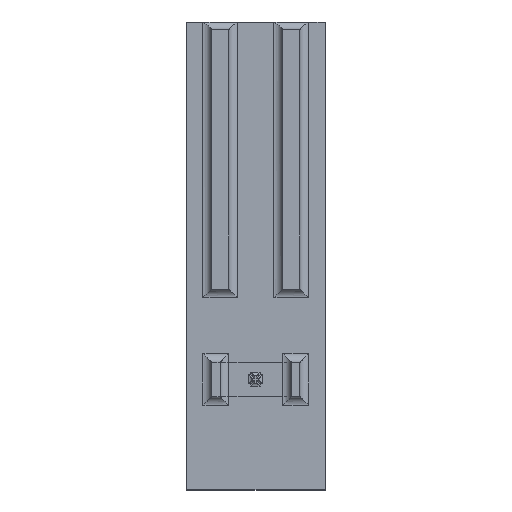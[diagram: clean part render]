
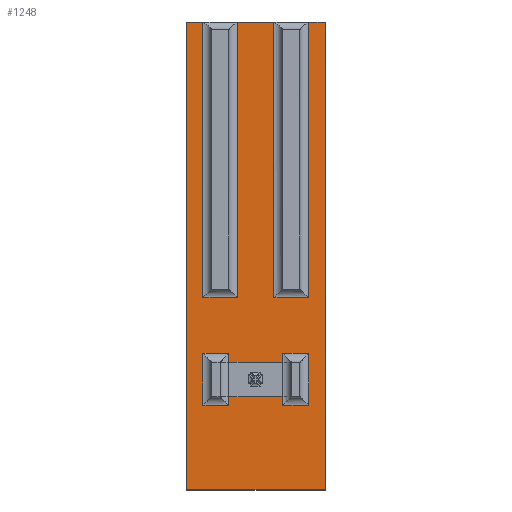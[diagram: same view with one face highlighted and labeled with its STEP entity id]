
A CAD part, top view. The second image highlights one B-rep face of the part: STEP entity #1248.
In plain terms, the highlighted planar face has unit normal (0, 0, 1).
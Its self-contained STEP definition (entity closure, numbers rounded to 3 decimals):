
#20=FACE_BOUND('',#192,.T.);
#21=FACE_BOUND('',#193,.T.);
#61=PLANE('',#1347);
#117=FACE_OUTER_BOUND('',#191,.T.);
#191=EDGE_LOOP('',(#978,#979,#980,#981,#982,#983,#984,#985,#986,#987,#988,
#989));
#192=EDGE_LOOP('',(#990,#991,#992,#993));
#193=EDGE_LOOP('',(#994,#995,#996,#997));
#296=LINE('',#1997,#430);
#297=LINE('',#1999,#431);
#298=LINE('',#2001,#432);
#299=LINE('',#2003,#433);
#300=LINE('',#2005,#434);
#301=LINE('',#2007,#435);
#302=LINE('',#2009,#436);
#303=LINE('',#2011,#437);
#304=LINE('',#2013,#438);
#305=LINE('',#2014,#439);
#306=LINE('',#2016,#440);
#307=LINE('',#2017,#441);
#308=LINE('',#2020,#442);
#309=LINE('',#2022,#443);
#310=LINE('',#2024,#444);
#311=LINE('',#2025,#445);
#312=LINE('',#2028,#446);
#313=LINE('',#2030,#447);
#314=LINE('',#2032,#448);
#315=LINE('',#2033,#449);
#430=VECTOR('',#1590,10.);
#431=VECTOR('',#1591,10.);
#432=VECTOR('',#1592,10.);
#433=VECTOR('',#1593,10.);
#434=VECTOR('',#1594,10.);
#435=VECTOR('',#1595,10.);
#436=VECTOR('',#1596,10.);
#437=VECTOR('',#1597,10.);
#438=VECTOR('',#1598,10.);
#439=VECTOR('',#1599,10.);
#440=VECTOR('',#1600,10.);
#441=VECTOR('',#1601,10.);
#442=VECTOR('',#1602,10.);
#443=VECTOR('',#1603,10.);
#444=VECTOR('',#1604,10.);
#445=VECTOR('',#1605,10.);
#446=VECTOR('',#1606,10.);
#447=VECTOR('',#1607,10.);
#448=VECTOR('',#1608,10.);
#449=VECTOR('',#1609,10.);
#576=VERTEX_POINT('',#1953);
#579=VERTEX_POINT('',#1975);
#580=VERTEX_POINT('',#1996);
#581=VERTEX_POINT('',#1998);
#582=VERTEX_POINT('',#2000);
#583=VERTEX_POINT('',#2002);
#584=VERTEX_POINT('',#2004);
#585=VERTEX_POINT('',#2006);
#586=VERTEX_POINT('',#2008);
#587=VERTEX_POINT('',#2010);
#588=VERTEX_POINT('',#2012);
#589=VERTEX_POINT('',#2015);
#590=VERTEX_POINT('',#2018);
#591=VERTEX_POINT('',#2019);
#592=VERTEX_POINT('',#2021);
#593=VERTEX_POINT('',#2023);
#594=VERTEX_POINT('',#2026);
#595=VERTEX_POINT('',#2027);
#596=VERTEX_POINT('',#2029);
#597=VERTEX_POINT('',#2031);
#722=EDGE_CURVE('',#576,#580,#296,.T.);
#723=EDGE_CURVE('',#576,#581,#297,.T.);
#724=EDGE_CURVE('',#582,#581,#298,.T.);
#725=EDGE_CURVE('',#583,#582,#299,.T.);
#726=EDGE_CURVE('',#584,#583,#300,.T.);
#727=EDGE_CURVE('',#584,#585,#301,.T.);
#728=EDGE_CURVE('',#585,#586,#302,.T.);
#729=EDGE_CURVE('',#586,#587,#303,.T.);
#730=EDGE_CURVE('',#587,#588,#304,.T.);
#731=EDGE_CURVE('',#588,#579,#305,.T.);
#732=EDGE_CURVE('',#589,#579,#306,.T.);
#733=EDGE_CURVE('',#580,#589,#307,.T.);
#734=EDGE_CURVE('',#590,#591,#308,.T.);
#735=EDGE_CURVE('',#592,#590,#309,.T.);
#736=EDGE_CURVE('',#593,#592,#310,.T.);
#737=EDGE_CURVE('',#591,#593,#311,.T.);
#738=EDGE_CURVE('',#594,#595,#312,.T.);
#739=EDGE_CURVE('',#596,#594,#313,.T.);
#740=EDGE_CURVE('',#597,#596,#314,.T.);
#741=EDGE_CURVE('',#595,#597,#315,.T.);
#978=ORIENTED_EDGE('',*,*,#722,.F.);
#979=ORIENTED_EDGE('',*,*,#723,.T.);
#980=ORIENTED_EDGE('',*,*,#724,.F.);
#981=ORIENTED_EDGE('',*,*,#725,.F.);
#982=ORIENTED_EDGE('',*,*,#726,.F.);
#983=ORIENTED_EDGE('',*,*,#727,.T.);
#984=ORIENTED_EDGE('',*,*,#728,.T.);
#985=ORIENTED_EDGE('',*,*,#729,.T.);
#986=ORIENTED_EDGE('',*,*,#730,.T.);
#987=ORIENTED_EDGE('',*,*,#731,.T.);
#988=ORIENTED_EDGE('',*,*,#732,.F.);
#989=ORIENTED_EDGE('',*,*,#733,.F.);
#990=ORIENTED_EDGE('',*,*,#734,.F.);
#991=ORIENTED_EDGE('',*,*,#735,.F.);
#992=ORIENTED_EDGE('',*,*,#736,.F.);
#993=ORIENTED_EDGE('',*,*,#737,.F.);
#994=ORIENTED_EDGE('',*,*,#738,.F.);
#995=ORIENTED_EDGE('',*,*,#739,.F.);
#996=ORIENTED_EDGE('',*,*,#740,.F.);
#997=ORIENTED_EDGE('',*,*,#741,.F.);
#1248=ADVANCED_FACE('',(#117,#20,#21),#61,.T.);
#1347=AXIS2_PLACEMENT_3D('',#1995,#1588,#1589);
#1588=DIRECTION('center_axis',(0.,0.,1.));
#1589=DIRECTION('ref_axis',(1.,0.,0.));
#1590=DIRECTION('',(0.,-1.,0.));
#1591=DIRECTION('',(-1.,0.,0.));
#1592=DIRECTION('',(0.,1.,0.));
#1593=DIRECTION('',(1.,0.,0.));
#1594=DIRECTION('',(0.,-1.,0.));
#1595=DIRECTION('',(-1.,0.,0.));
#1596=DIRECTION('',(0.,-1.,0.));
#1597=DIRECTION('',(1.,0.,0.));
#1598=DIRECTION('',(0.,1.,0.));
#1599=DIRECTION('',(-1.,0.,0.));
#1600=DIRECTION('',(0.,1.,0.));
#1601=DIRECTION('',(1.,0.,0.));
#1602=DIRECTION('',(0.,-1.,0.));
#1603=DIRECTION('',(-1.,0.,0.));
#1604=DIRECTION('',(0.,1.,0.));
#1605=DIRECTION('',(1.,0.,0.));
#1606=DIRECTION('',(-1.,0.,0.));
#1607=DIRECTION('',(0.,1.,0.));
#1608=DIRECTION('',(1.,0.,0.));
#1609=DIRECTION('',(0.,-1.,0.));
#1953=CARTESIAN_POINT('',(-0.121,131.354,-5.));
#1975=CARTESIAN_POINT('',(19.879,131.354,-5.));
#1995=CARTESIAN_POINT('Origin',(-10.474,-3.646,-5.));
#1996=CARTESIAN_POINT('',(-0.121,-27.859,-5.));
#1997=CARTESIAN_POINT('',(-0.121,61.747,-5.));
#1998=CARTESIAN_POINT('',(-21.121,131.354,-5.));
#1999=CARTESIAN_POINT('',(-50.474,131.354,-5.));
#2000=CARTESIAN_POINT('',(-21.121,-27.859,-5.));
#2001=CARTESIAN_POINT('',(-21.121,-13.253,-5.));
#2002=CARTESIAN_POINT('',(-41.121,-27.859,-5.));
#2003=CARTESIAN_POINT('',(-23.297,-27.859,-5.));
#2004=CARTESIAN_POINT('',(-41.121,131.354,-5.));
#2005=CARTESIAN_POINT('',(-41.121,61.747,-5.));
#2006=CARTESIAN_POINT('',(-50.474,131.354,-5.));
#2007=CARTESIAN_POINT('',(-50.474,131.354,-5.));
#2008=CARTESIAN_POINT('',(-50.474,-138.646,-5.));
#2009=CARTESIAN_POINT('',(-50.474,-138.646,-5.));
#2010=CARTESIAN_POINT('',(29.526,-138.646,-5.));
#2011=CARTESIAN_POINT('',(29.526,-138.646,-5.));
#2012=CARTESIAN_POINT('',(29.526,131.354,-5.));
#2013=CARTESIAN_POINT('',(29.526,131.354,-5.));
#2014=CARTESIAN_POINT('',(-50.474,131.354,-5.));
#2015=CARTESIAN_POINT('',(19.879,-27.859,-5.));
#2016=CARTESIAN_POINT('',(19.879,-13.253,-5.));
#2017=CARTESIAN_POINT('',(-2.797,-27.859,-5.));
#2018=CARTESIAN_POINT('',(4.879,-59.869,-5.));
#2019=CARTESIAN_POINT('',(4.879,-89.869,-5.));
#2020=CARTESIAN_POINT('',(4.879,-34.258,-5.));
#2021=CARTESIAN_POINT('',(19.879,-59.869,-5.));
#2022=CARTESIAN_POINT('',(-20.797,-59.869,-5.));
#2023=CARTESIAN_POINT('',(19.879,-89.869,-5.));
#2024=CARTESIAN_POINT('',(19.879,-44.258,-5.));
#2025=CARTESIAN_POINT('',(-23.297,-89.869,-5.));
#2026=CARTESIAN_POINT('',(-26.121,-59.869,-5.));
#2027=CARTESIAN_POINT('',(-41.121,-59.869,-5.));
#2028=CARTESIAN_POINT('',(-20.797,-59.869,-5.));
#2029=CARTESIAN_POINT('',(-26.121,-89.869,-5.));
#2030=CARTESIAN_POINT('',(-26.121,-44.258,-5.));
#2031=CARTESIAN_POINT('',(-41.121,-89.869,-5.));
#2032=CARTESIAN_POINT('',(-23.297,-89.869,-5.));
#2033=CARTESIAN_POINT('',(-41.121,-34.258,-5.));
